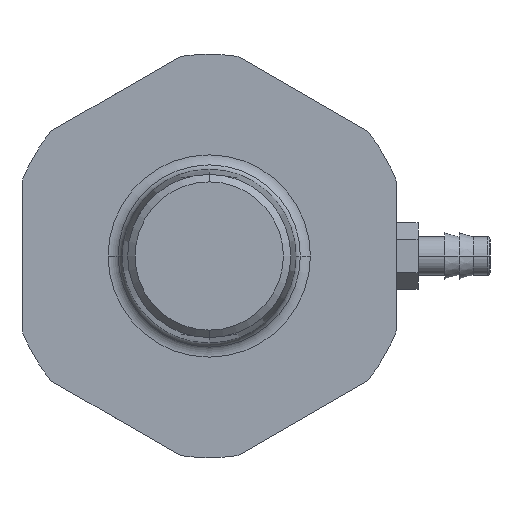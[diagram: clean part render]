
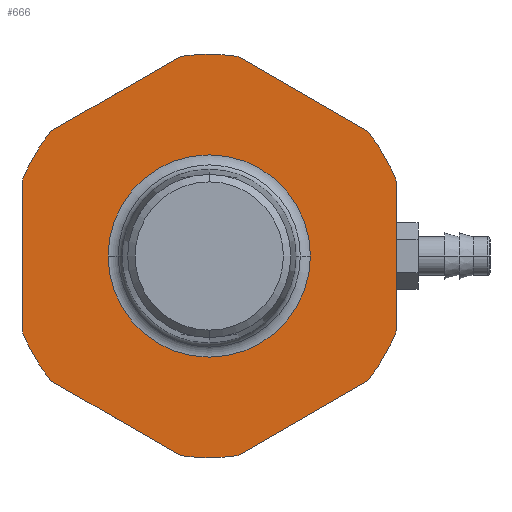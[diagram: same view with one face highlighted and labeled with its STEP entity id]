
A CAD part, left-side view. The second image highlights one B-rep face of the part: STEP entity #666.
In plain terms, the highlighted planar face has unit normal (-1, 0, 0).
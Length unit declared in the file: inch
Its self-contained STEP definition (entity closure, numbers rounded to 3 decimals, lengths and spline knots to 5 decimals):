
#200=CARTESIAN_POINT('',(-2.875,0.,0.));
#201=DIRECTION('',(-1.,0.,0.));
#202=DIRECTION('',(0.,0.143,-0.99));
#203=AXIS2_PLACEMENT_3D('',#200,#201,#202);
#205=DIRECTION('',(0.,-0.866,-0.5));
#206=VECTOR('',#205,0.64952);
#207=CARTESIAN_POINT('',(-2.875,0.6875,-0.54127));
#208=LINE('',#207,#206);
#209=CARTESIAN_POINT('',(-2.875,0.,0.));
#210=DIRECTION('',(-1.,0.,0.));
#211=DIRECTION('',(0.,0.866,-0.5));
#212=AXIS2_PLACEMENT_3D('',#209,#210,#211);
#214=CARTESIAN_POINT('',(-2.875,0.,0.));
#215=DIRECTION('',(-1.,0.,0.));
#216=DIRECTION('',(0.,0.929,-0.371));
#217=AXIS2_PLACEMENT_3D('',#214,#215,#216);
#219=DIRECTION('',(0.,0.,-1.));
#220=VECTOR('',#219,0.64952);
#221=CARTESIAN_POINT('',(-2.875,0.8125,0.32476));
#222=LINE('',#221,#220);
#223=CARTESIAN_POINT('',(-2.875,0.,0.));
#224=DIRECTION('',(-1.,0.,0.));
#225=DIRECTION('',(0.,0.866,0.5));
#226=AXIS2_PLACEMENT_3D('',#223,#224,#225);
#228=CARTESIAN_POINT('',(-2.875,0.,0.));
#229=DIRECTION('',(-1.,0.,0.));
#230=DIRECTION('',(0.,0.786,0.619));
#231=AXIS2_PLACEMENT_3D('',#228,#229,#230);
#233=DIRECTION('',(0.,0.866,-0.5));
#234=VECTOR('',#233,0.64952);
#235=CARTESIAN_POINT('',(-2.875,0.125,0.86603));
#236=LINE('',#235,#234);
#237=CARTESIAN_POINT('',(-2.875,0.,0.));
#238=DIRECTION('',(-1.,0.,0.));
#239=DIRECTION('',(0.,0.,1.));
#240=AXIS2_PLACEMENT_3D('',#237,#238,#239);
#242=CARTESIAN_POINT('',(-2.875,0.,0.));
#243=DIRECTION('',(-1.,0.,0.));
#244=DIRECTION('',(0.,-0.143,0.99));
#245=AXIS2_PLACEMENT_3D('',#242,#243,#244);
#247=DIRECTION('',(0.,0.866,0.5));
#248=VECTOR('',#247,0.64952);
#249=CARTESIAN_POINT('',(-2.875,-0.6875,0.54127));
#250=LINE('',#249,#248);
#251=CARTESIAN_POINT('',(-2.875,0.,0.));
#252=DIRECTION('',(-1.,0.,0.));
#253=DIRECTION('',(0.,-0.866,0.5));
#254=AXIS2_PLACEMENT_3D('',#251,#252,#253);
#256=CARTESIAN_POINT('',(-2.875,0.,0.));
#257=DIRECTION('',(-1.,0.,0.));
#258=DIRECTION('',(0.,-0.929,0.371));
#259=AXIS2_PLACEMENT_3D('',#256,#257,#258);
#261=DIRECTION('',(0.,0.,1.));
#262=VECTOR('',#261,0.64952);
#263=CARTESIAN_POINT('',(-2.875,-0.8125,-0.32476));
#264=LINE('',#263,#262);
#265=CARTESIAN_POINT('',(-2.875,0.,0.));
#266=DIRECTION('',(-1.,0.,0.));
#267=DIRECTION('',(0.,-0.866,-0.5));
#268=AXIS2_PLACEMENT_3D('',#265,#266,#267);
#270=CARTESIAN_POINT('',(-2.875,0.,0.));
#271=DIRECTION('',(-1.,0.,0.));
#272=DIRECTION('',(0.,-0.786,-0.619));
#273=AXIS2_PLACEMENT_3D('',#270,#271,#272);
#275=DIRECTION('',(0.,-0.866,0.5));
#276=VECTOR('',#275,0.64952);
#277=CARTESIAN_POINT('',(-2.875,-0.125,-0.86603));
#278=LINE('',#277,#276);
#279=CARTESIAN_POINT('',(-2.875,0.,0.));
#280=DIRECTION('',(-1.,0.,0.));
#281=DIRECTION('',(0.,0.,-1.));
#282=AXIS2_PLACEMENT_3D('',#279,#280,#281);
#284=CARTESIAN_POINT('',(-2.875,0.,0.));
#285=DIRECTION('',(1.,0.,0.));
#286=DIRECTION('',(0.,0.,1.));
#287=AXIS2_PLACEMENT_3D('',#284,#285,#286);
#289=CARTESIAN_POINT('',(-2.875,0.,0.));
#290=DIRECTION('',(1.,0.,0.));
#291=DIRECTION('',(0.,1.,0.));
#292=AXIS2_PLACEMENT_3D('',#289,#290,#291);
#294=CARTESIAN_POINT('',(-2.875,0.,0.));
#295=DIRECTION('',(1.,0.,0.));
#296=DIRECTION('',(0.,-1.,0.));
#297=AXIS2_PLACEMENT_3D('',#294,#295,#296);
#517=CARTESIAN_POINT('',(-2.875,0.,-0.875));
#518=CARTESIAN_POINT('',(-2.875,-0.125,-0.86603));
#519=VERTEX_POINT('',#517);
#520=VERTEX_POINT('',#518);
#521=CARTESIAN_POINT('',(-2.875,0.125,-0.86603));
#522=VERTEX_POINT('',#521);
#527=CARTESIAN_POINT('',(-2.875,-0.6875,-0.54127));
#528=VERTEX_POINT('',#527);
#529=CARTESIAN_POINT('',(-2.875,0.6875,-0.54127));
#530=VERTEX_POINT('',#529);
#535=CARTESIAN_POINT('',(-2.875,-0.75777,-0.4375));
#536=CARTESIAN_POINT('',(-2.875,-0.8125,-0.32476));
#537=VERTEX_POINT('',#535);
#538=VERTEX_POINT('',#536);
#539=CARTESIAN_POINT('',(-2.875,0.75777,-0.4375));
#540=VERTEX_POINT('',#539);
#541=CARTESIAN_POINT('',(-2.875,0.8125,-0.32476));
#542=VERTEX_POINT('',#541);
#549=CARTESIAN_POINT('',(-2.875,-0.8125,0.32476));
#550=VERTEX_POINT('',#549);
#551=CARTESIAN_POINT('',(-2.875,0.8125,0.32476));
#552=VERTEX_POINT('',#551);
#559=CARTESIAN_POINT('',(-2.875,-0.75777,0.4375));
#560=CARTESIAN_POINT('',(-2.875,-0.6875,0.54127));
#561=VERTEX_POINT('',#559);
#562=VERTEX_POINT('',#560);
#563=CARTESIAN_POINT('',(-2.875,0.75777,0.4375));
#564=VERTEX_POINT('',#563);
#565=CARTESIAN_POINT('',(-2.875,0.6875,0.54127));
#566=VERTEX_POINT('',#565);
#573=CARTESIAN_POINT('',(-2.875,-0.125,0.86603));
#574=VERTEX_POINT('',#573);
#575=CARTESIAN_POINT('',(-2.875,0.125,0.86603));
#576=VERTEX_POINT('',#575);
#583=CARTESIAN_POINT('',(-2.875,0.,0.875));
#584=VERTEX_POINT('',#583);
#589=CARTESIAN_POINT('',(-2.875,0.43896,0.));
#591=VERTEX_POINT('',#589);
#595=CARTESIAN_POINT('',(-2.875,-0.43896,0.));
#596=VERTEX_POINT('',#595);
#601=CARTESIAN_POINT('',(-2.875,0.,0.43896));
#602=VERTEX_POINT('',#601);
#615=CARTESIAN_POINT('',(-2.875,0.,0.));
#616=DIRECTION('',(-1.,0.,0.));
#617=DIRECTION('',(0.,0.,1.));
#618=AXIS2_PLACEMENT_3D('',#615,#616,#617);
#619=PLANE('',#618);
#621=ORIENTED_EDGE('',*,*,#620,.F.);
#623=ORIENTED_EDGE('',*,*,#622,.F.);
#625=ORIENTED_EDGE('',*,*,#624,.F.);
#627=ORIENTED_EDGE('',*,*,#626,.F.);
#629=ORIENTED_EDGE('',*,*,#628,.F.);
#631=ORIENTED_EDGE('',*,*,#630,.F.);
#633=ORIENTED_EDGE('',*,*,#632,.F.);
#635=ORIENTED_EDGE('',*,*,#634,.F.);
#637=ORIENTED_EDGE('',*,*,#636,.F.);
#639=ORIENTED_EDGE('',*,*,#638,.F.);
#641=ORIENTED_EDGE('',*,*,#640,.F.);
#643=ORIENTED_EDGE('',*,*,#642,.F.);
#645=ORIENTED_EDGE('',*,*,#644,.F.);
#647=ORIENTED_EDGE('',*,*,#646,.F.);
#649=ORIENTED_EDGE('',*,*,#648,.F.);
#651=ORIENTED_EDGE('',*,*,#650,.F.);
#653=ORIENTED_EDGE('',*,*,#652,.F.);
#655=ORIENTED_EDGE('',*,*,#654,.F.);
#656=EDGE_LOOP('',(#621,#623,#625,#627,#629,#631,#633,#635,#637,#639,#641,#643,
#645,#647,#649,#651,#653,#655));
#657=FACE_OUTER_BOUND('',#656,.F.);
#659=ORIENTED_EDGE('',*,*,#658,.F.);
#661=ORIENTED_EDGE('',*,*,#660,.F.);
#663=ORIENTED_EDGE('',*,*,#662,.F.);
#664=EDGE_LOOP('',(#659,#661,#663));
#665=FACE_BOUND('',#664,.F.);
#204=CIRCLE('',#203,0.875);
#213=CIRCLE('',#212,0.875);
#218=CIRCLE('',#217,0.875);
#227=CIRCLE('',#226,0.875);
#232=CIRCLE('',#231,0.875);
#241=CIRCLE('',#240,0.875);
#246=CIRCLE('',#245,0.875);
#255=CIRCLE('',#254,0.875);
#260=CIRCLE('',#259,0.875);
#269=CIRCLE('',#268,0.875);
#274=CIRCLE('',#273,0.875);
#283=CIRCLE('',#282,0.875);
#288=CIRCLE('',#287,0.43896);
#293=CIRCLE('',#292,0.43896);
#298=CIRCLE('',#297,0.43896);
#620=EDGE_CURVE('',#522,#519,#204,.T.);
#622=EDGE_CURVE('',#530,#522,#208,.T.);
#624=EDGE_CURVE('',#540,#530,#213,.T.);
#626=EDGE_CURVE('',#542,#540,#218,.T.);
#628=EDGE_CURVE('',#552,#542,#222,.T.);
#630=EDGE_CURVE('',#564,#552,#227,.T.);
#632=EDGE_CURVE('',#566,#564,#232,.T.);
#634=EDGE_CURVE('',#576,#566,#236,.T.);
#636=EDGE_CURVE('',#584,#576,#241,.T.);
#638=EDGE_CURVE('',#574,#584,#246,.T.);
#640=EDGE_CURVE('',#562,#574,#250,.T.);
#642=EDGE_CURVE('',#561,#562,#255,.T.);
#644=EDGE_CURVE('',#550,#561,#260,.T.);
#646=EDGE_CURVE('',#538,#550,#264,.T.);
#648=EDGE_CURVE('',#537,#538,#269,.T.);
#650=EDGE_CURVE('',#528,#537,#274,.T.);
#652=EDGE_CURVE('',#520,#528,#278,.T.);
#654=EDGE_CURVE('',#519,#520,#283,.T.);
#658=EDGE_CURVE('',#602,#596,#288,.T.);
#660=EDGE_CURVE('',#591,#602,#293,.T.);
#662=EDGE_CURVE('',#596,#591,#298,.T.);
#666=ADVANCED_FACE('',(#657,#665),#619,.T.);
